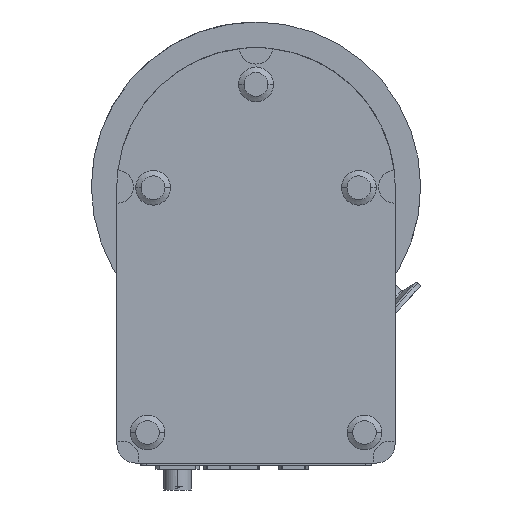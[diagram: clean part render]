
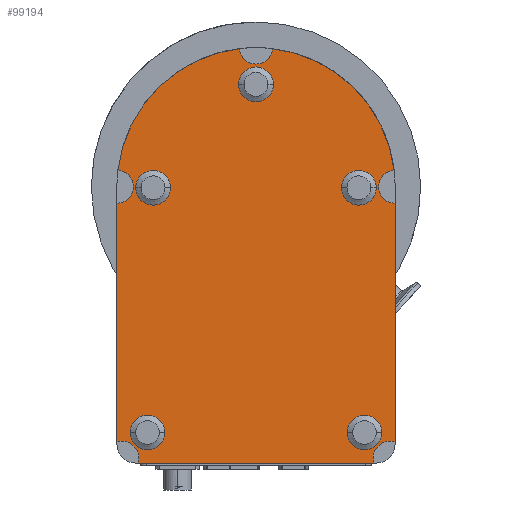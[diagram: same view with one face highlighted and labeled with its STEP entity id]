
A CAD part, front view. The second image highlights one B-rep face of the part: STEP entity #99194.
In plain terms, the highlighted planar face has unit normal (0, -1, 0).
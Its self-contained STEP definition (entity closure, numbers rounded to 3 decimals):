
#29242=CARTESIAN_POINT('',(76.,-79.65,0.));
#29243=DIRECTION('',(0.,-1.,0.));
#29244=DIRECTION('',(-0.059,0.,0.998));
#29245=AXIS2_PLACEMENT_3D('',#29242,#29243,#29244);
#29247=DIRECTION('',(0.,0.,-1.));
#29248=VECTOR('',#29247,130.561);
#29249=CARTESIAN_POINT('',(76.,-79.65,-9.));
#29250=LINE('',#29249,#29248);
#29251=DIRECTION('',(-1.,0.,0.));
#29252=VECTOR('',#29251,129.122);
#29253=CARTESIAN_POINT('',(64.561,-79.65,-151.));
#29254=LINE('',#29253,#29252);
#29255=DIRECTION('',(0.,0.,1.));
#29256=VECTOR('',#29255,130.561);
#29257=CARTESIAN_POINT('',(-76.,-79.65,-139.561));
#29258=LINE('',#29257,#29256);
#29259=CARTESIAN_POINT('',(-76.,-79.65,0.));
#29260=DIRECTION('',(0.,-1.,0.));
#29261=DIRECTION('',(0.,0.,-1.));
#29262=AXIS2_PLACEMENT_3D('',#29259,#29260,#29261);
#29264=CARTESIAN_POINT('',(0.,-79.65,0.));
#29265=DIRECTION('',(0.,1.,0.));
#29266=DIRECTION('',(-0.993,0.,0.118));
#29267=AXIS2_PLACEMENT_3D('',#29264,#29265,#29266);
#29269=CARTESIAN_POINT('',(0.,-79.65,0.));
#29270=DIRECTION('',(0.,1.,0.));
#29271=DIRECTION('',(0.118,0.,0.993));
#29272=AXIS2_PLACEMENT_3D('',#29269,#29270,#29271);
#29274=CARTESIAN_POINT('',(59.307,-79.65,-134.307));
#29275=DIRECTION('',(0.,1.,0.));
#29276=DIRECTION('',(1.,0.,0.));
#29277=AXIS2_PLACEMENT_3D('',#29274,#29275,#29276);
#29279=CARTESIAN_POINT('',(59.307,-79.65,-134.307));
#29280=DIRECTION('',(0.,1.,0.));
#29281=DIRECTION('',(-1.,0.,0.));
#29282=AXIS2_PLACEMENT_3D('',#29279,#29280,#29281);
#29284=CARTESIAN_POINT('',(-59.307,-79.65,-134.307));
#29285=DIRECTION('',(0.,1.,0.));
#29286=DIRECTION('',(1.,0.,0.));
#29287=AXIS2_PLACEMENT_3D('',#29284,#29285,#29286);
#29289=CARTESIAN_POINT('',(-59.307,-79.65,-134.307));
#29290=DIRECTION('',(0.,1.,0.));
#29291=DIRECTION('',(-1.,0.,0.));
#29292=AXIS2_PLACEMENT_3D('',#29289,#29290,#29291);
#29294=CARTESIAN_POINT('',(56.215,-79.65,-0.586));
#29295=DIRECTION('',(0.,1.,0.));
#29296=DIRECTION('',(1.,0.,0.));
#29297=AXIS2_PLACEMENT_3D('',#29294,#29295,#29296);
#29299=CARTESIAN_POINT('',(56.215,-79.65,-0.586));
#29300=DIRECTION('',(0.,1.,0.));
#29301=DIRECTION('',(-1.,0.,0.));
#29302=AXIS2_PLACEMENT_3D('',#29299,#29300,#29301);
#29304=CARTESIAN_POINT('',(0.,-79.65,55.934));
#29305=DIRECTION('',(0.,1.,0.));
#29306=DIRECTION('',(1.,0.,0.));
#29307=AXIS2_PLACEMENT_3D('',#29304,#29305,#29306);
#29309=CARTESIAN_POINT('',(0.,-79.65,55.934));
#29310=DIRECTION('',(0.,1.,0.));
#29311=DIRECTION('',(-1.,0.,0.));
#29312=AXIS2_PLACEMENT_3D('',#29309,#29310,#29311);
#29314=CARTESIAN_POINT('',(-56.215,-79.65,-0.586));
#29315=DIRECTION('',(0.,1.,0.));
#29316=DIRECTION('',(1.,0.,0.));
#29317=AXIS2_PLACEMENT_3D('',#29314,#29315,#29316);
#29319=CARTESIAN_POINT('',(-56.215,-79.65,-0.586));
#29320=DIRECTION('',(0.,1.,0.));
#29321=DIRECTION('',(-1.,0.,0.));
#29322=AXIS2_PLACEMENT_3D('',#29319,#29320,#29321);
#29329=CARTESIAN_POINT('',(73.071,-79.65,-148.071));
#29330=DIRECTION('',(0.,1.,0.));
#29331=DIRECTION('',(-0.946,0.,-0.325));
#29332=AXIS2_PLACEMENT_3D('',#29329,#29330,#29331);
#29339=CARTESIAN_POINT('',(-73.071,-79.65,-148.071));
#29340=DIRECTION('',(0.,1.,0.));
#29341=DIRECTION('',(-0.325,0.,0.946));
#29342=AXIS2_PLACEMENT_3D('',#29339,#29340,#29341);
#29344=CARTESIAN_POINT('',(0.,-79.65,76.));
#29345=DIRECTION('',(0.,1.,0.));
#29346=DIRECTION('',(0.998,0.,-0.059));
#29347=AXIS2_PLACEMENT_3D('',#29344,#29345,#29346);
#29687=CARTESIAN_POINT('',(75.467,-79.65,8.984));
#29688=CARTESIAN_POINT('',(76.,-79.65,-9.));
#29689=VERTEX_POINT('',#29687);
#29690=VERTEX_POINT('',#29688);
#29691=CARTESIAN_POINT('',(-76.,-79.65,-9.));
#29692=CARTESIAN_POINT('',(-75.467,-79.65,8.984));
#29693=VERTEX_POINT('',#29691);
#29694=VERTEX_POINT('',#29692);
#29707=CARTESIAN_POINT('',(8.984,-79.65,75.467));
#29708=VERTEX_POINT('',#29707);
#29709=CARTESIAN_POINT('',(-8.984,-79.65,75.467));
#29710=VERTEX_POINT('',#29709);
#29731=CARTESIAN_POINT('',(76.,-79.65,-139.561));
#29732=VERTEX_POINT('',#29731);
#29733=CARTESIAN_POINT('',(64.561,-79.65,-151.));
#29734=CARTESIAN_POINT('',(-64.561,-79.65,-151.));
#29735=VERTEX_POINT('',#29733);
#29736=VERTEX_POINT('',#29734);
#29737=CARTESIAN_POINT('',(-76.,-79.65,-139.561));
#29738=VERTEX_POINT('',#29737);
#34601=CARTESIAN_POINT('',(68.807,-79.65,-134.307));
#34602=CARTESIAN_POINT('',(49.807,-79.65,-134.307));
#34603=VERTEX_POINT('',#34601);
#34604=VERTEX_POINT('',#34602);
#34605=CARTESIAN_POINT('',(-49.807,-79.65,-134.307));
#34606=CARTESIAN_POINT('',(-68.807,-79.65,-134.307));
#34607=VERTEX_POINT('',#34605);
#34608=VERTEX_POINT('',#34606);
#34609=CARTESIAN_POINT('',(65.715,-79.65,-0.586));
#34610=CARTESIAN_POINT('',(46.715,-79.65,-0.586));
#34611=VERTEX_POINT('',#34609);
#34612=VERTEX_POINT('',#34610);
#34613=CARTESIAN_POINT('',(9.5,-79.65,55.934));
#34614=CARTESIAN_POINT('',(-9.5,-79.65,55.934));
#34615=VERTEX_POINT('',#34613);
#34616=VERTEX_POINT('',#34614);
#34617=CARTESIAN_POINT('',(-46.715,-79.65,-0.586));
#34618=CARTESIAN_POINT('',(-65.715,-79.65,-0.586));
#34619=VERTEX_POINT('',#34617);
#34620=VERTEX_POINT('',#34618);
#99143=CARTESIAN_POINT('',(0.,-79.65,0.));
#99144=DIRECTION('',(0.,1.,0.));
#99145=DIRECTION('',(0.,0.,-1.));
#99146=AXIS2_PLACEMENT_3D('',#99143,#99144,#99145);
#99147=PLANE('',#99146);
#99149=ORIENTED_EDGE('',*,*,#99148,.T.);
#99150=ORIENTED_EDGE('',*,*,#99045,.T.);
#99152=ORIENTED_EDGE('',*,*,#99151,.F.);
#99153=ORIENTED_EDGE('',*,*,#35821,.T.);
#99155=ORIENTED_EDGE('',*,*,#99154,.F.);
#99156=ORIENTED_EDGE('',*,*,#35925,.T.);
#99157=ORIENTED_EDGE('',*,*,#99135,.T.);
#99158=ORIENTED_EDGE('',*,*,#35989,.T.);
#99160=ORIENTED_EDGE('',*,*,#99159,.F.);
#99161=ORIENTED_EDGE('',*,*,#35981,.T.);
#99162=EDGE_LOOP('',(#99149,#99150,#99152,#99153,#99155,#99156,#99157,#99158,
#99160,#99161));
#99163=FACE_OUTER_BOUND('',#99162,.F.);
#99165=ORIENTED_EDGE('',*,*,#99164,.F.);
#99167=ORIENTED_EDGE('',*,*,#99166,.F.);
#99168=EDGE_LOOP('',(#99165,#99167));
#99169=FACE_BOUND('',#99168,.F.);
#99171=ORIENTED_EDGE('',*,*,#99170,.F.);
#99173=ORIENTED_EDGE('',*,*,#99172,.F.);
#99174=EDGE_LOOP('',(#99171,#99173));
#99175=FACE_BOUND('',#99174,.F.);
#99177=ORIENTED_EDGE('',*,*,#99176,.F.);
#99179=ORIENTED_EDGE('',*,*,#99178,.F.);
#99180=EDGE_LOOP('',(#99177,#99179));
#99181=FACE_BOUND('',#99180,.F.);
#99183=ORIENTED_EDGE('',*,*,#99182,.F.);
#99185=ORIENTED_EDGE('',*,*,#99184,.F.);
#99186=EDGE_LOOP('',(#99183,#99185));
#99187=FACE_BOUND('',#99186,.F.);
#99189=ORIENTED_EDGE('',*,*,#99188,.F.);
#99191=ORIENTED_EDGE('',*,*,#99190,.F.);
#99192=EDGE_LOOP('',(#99189,#99191));
#99193=FACE_BOUND('',#99192,.F.);
#99194=ADVANCED_FACE('',(#99163,#99169,#99175,#99181,#99187,#99193),#99147,.F.);
#29246=CIRCLE('',#29245,9.);
#29263=CIRCLE('',#29262,9.);
#29268=CIRCLE('',#29267,76.);
#29273=CIRCLE('',#29272,76.);
#29278=CIRCLE('',#29277,9.5);
#29283=CIRCLE('',#29282,9.5);
#29288=CIRCLE('',#29287,9.5);
#29293=CIRCLE('',#29292,9.5);
#29298=CIRCLE('',#29297,9.5);
#29303=CIRCLE('',#29302,9.5);
#29308=CIRCLE('',#29307,9.5);
#29313=CIRCLE('',#29312,9.5);
#29318=CIRCLE('',#29317,9.5);
#29323=CIRCLE('',#29322,9.5);
#29333=CIRCLE('',#29332,9.);
#29343=CIRCLE('',#29342,9.);
#29348=CIRCLE('',#29347,9.);
#35821=EDGE_CURVE('',#29735,#29736,#29254,.T.);
#35925=EDGE_CURVE('',#29738,#29693,#29258,.T.);
#35981=EDGE_CURVE('',#29708,#29689,#29273,.T.);
#35989=EDGE_CURVE('',#29694,#29710,#29268,.T.);
#99045=EDGE_CURVE('',#29690,#29732,#29250,.T.);
#99135=EDGE_CURVE('',#29693,#29694,#29263,.T.);
#99148=EDGE_CURVE('',#29689,#29690,#29246,.T.);
#99151=EDGE_CURVE('',#29735,#29732,#29333,.T.);
#99154=EDGE_CURVE('',#29738,#29736,#29343,.T.);
#99159=EDGE_CURVE('',#29708,#29710,#29348,.T.);
#99164=EDGE_CURVE('',#34603,#34604,#29278,.T.);
#99166=EDGE_CURVE('',#34604,#34603,#29283,.T.);
#99170=EDGE_CURVE('',#34607,#34608,#29288,.T.);
#99172=EDGE_CURVE('',#34608,#34607,#29293,.T.);
#99176=EDGE_CURVE('',#34611,#34612,#29298,.T.);
#99178=EDGE_CURVE('',#34612,#34611,#29303,.T.);
#99182=EDGE_CURVE('',#34615,#34616,#29308,.T.);
#99184=EDGE_CURVE('',#34616,#34615,#29313,.T.);
#99188=EDGE_CURVE('',#34619,#34620,#29318,.T.);
#99190=EDGE_CURVE('',#34620,#34619,#29323,.T.);
